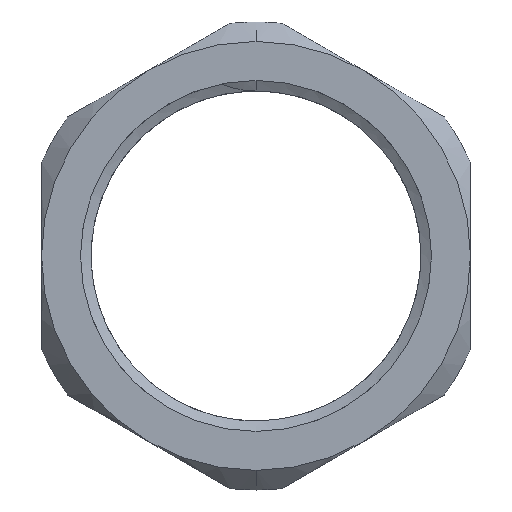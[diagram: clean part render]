
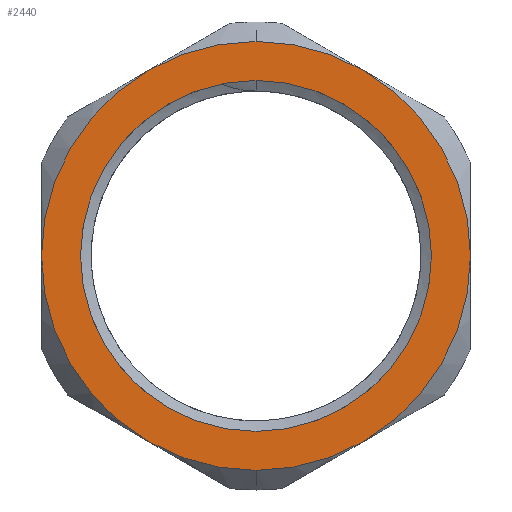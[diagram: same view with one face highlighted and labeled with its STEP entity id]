
A CAD part, top view. The second image highlights one B-rep face of the part: STEP entity #2440.
In plain terms, the highlighted planar face has unit normal (0, 0, 1).
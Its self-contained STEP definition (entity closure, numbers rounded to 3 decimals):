
#1850=CARTESIAN_POINT('',(0.,0.,2.));
#1860=DIRECTION('',(0.,0.,1.));
#1870=DIRECTION('',(1.,0.,0.));
#1880=AXIS2_PLACEMENT_3D('',#1850,#1860,#1870);
#1890=PLANE('',#1880);
#1900=CARTESIAN_POINT('',(6214.181,2594.376,
2.));
#1910=DIRECTION('',(0.,0.,-1.));
#1920=DIRECTION('',(-1.,0.,0.));
#1930=AXIS2_PLACEMENT_3D('',#1900,#1910,#1920);
#1940=CIRCLE('',#1930,5.5);
#1950=CARTESIAN_POINT('',(6209.418,2591.626,
2.));
#1960=VERTEX_POINT('',#1950);
#1970=CARTESIAN_POINT('',(6208.681,2594.376,
2.));
#1980=VERTEX_POINT('',#1970);
#1990=EDGE_CURVE('',#1960,#1980,#1940,.T.);
#2000=ORIENTED_EDGE('',*,*,#1990,.F.);
#2010=CARTESIAN_POINT('',(6209.418,2597.126,
2.));
#2020=VERTEX_POINT('',#2010);
#2030=EDGE_CURVE('',#1980,#2020,#1940,.T.);
#2040=ORIENTED_EDGE('',*,*,#2030,.F.);
#2050=CARTESIAN_POINT('',(6214.181,2599.876,
2.));
#2060=VERTEX_POINT('',#2050);
#2070=EDGE_CURVE('',#2020,#2060,#1940,.T.);
#2080=ORIENTED_EDGE('',*,*,#2070,.F.);
#2090=CARTESIAN_POINT('',(6218.944,2597.126,
2.));
#2100=VERTEX_POINT('',#2090);
#2110=EDGE_CURVE('',#2060,#2100,#1940,.T.);
#2120=ORIENTED_EDGE('',*,*,#2110,.F.);
#2130=CARTESIAN_POINT('',(6219.681,2594.376,2.
));
#2140=VERTEX_POINT('',#2130);
#2150=EDGE_CURVE('',#2100,#2140,#1940,.T.);
#2160=ORIENTED_EDGE('',*,*,#2150,.F.);
#2170=CARTESIAN_POINT('',(6218.944,2591.626,
2.));
#2180=VERTEX_POINT('',#2170);
#2190=EDGE_CURVE('',#2140,#2180,#1940,.T.);
#2200=ORIENTED_EDGE('',*,*,#2190,.F.);
#2210=CARTESIAN_POINT('',(6214.181,2588.876,
2.));
#2220=VERTEX_POINT('',#2210);
#2230=EDGE_CURVE('',#2180,#2220,#1940,.T.);
#2240=ORIENTED_EDGE('',*,*,#2230,.F.);
#2250=EDGE_CURVE('',#2220,#1960,#1940,.T.);
#2260=ORIENTED_EDGE('',*,*,#2250,.F.);
#2270=EDGE_LOOP('',(#2260,#2240,#2200,#2160,#2120,#2080,#2040,#2000));
#2280=FACE_OUTER_BOUND('',#2270,.T.);
#2290=CARTESIAN_POINT('',(6214.181,2594.376,2.));
#2300=DIRECTION('',(0.,0.,1.));
#2310=DIRECTION('',(1.,0.,0.));
#2320=AXIS2_PLACEMENT_3D('',#2290,#2300,#2310);
#2330=CIRCLE('',#2320,4.5);
#2340=CARTESIAN_POINT('',(6218.681,2594.376,2.));
#2350=VERTEX_POINT('',#2340);
#2360=CARTESIAN_POINT('',(6209.681,2594.376,2.));
#2370=VERTEX_POINT('',#2360);
#2380=EDGE_CURVE('',#2350,#2370,#2330,.T.);
#2390=ORIENTED_EDGE('',*,*,#2380,.F.);
#2400=EDGE_CURVE('',#2370,#2350,#2330,.T.);
#2410=ORIENTED_EDGE('',*,*,#2400,.F.);
#2420=EDGE_LOOP('',(#2410,#2390));
#2430=FACE_BOUND('',#2420,.T.);
#2440=ADVANCED_FACE('',(#2280,#2430),#1890,.T.);
